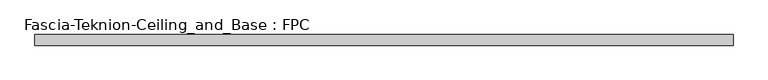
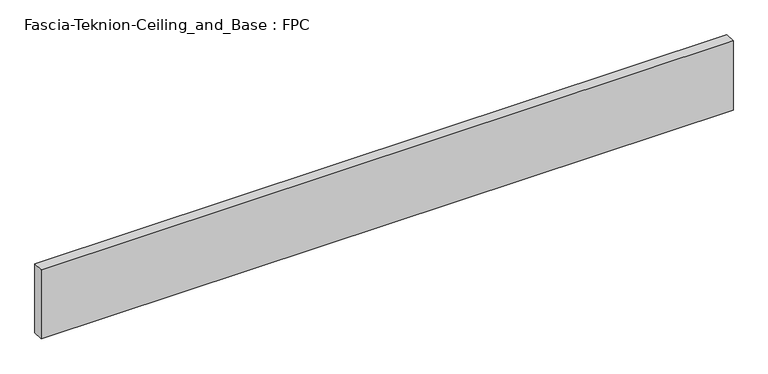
"""IFC4 building model written with IfcOpenShell, lengths in millimetres: proxy geometry, Fascia-Teknion-Ceiling_and_Base : FPC."""

from ifc_helpers import new_model, si_unit, origin, origin_with_axes, place, context, project, spatial, polyline, outline, extrude, source, transform, mapped, element, save


def fascia_teknion_ceiling_and_base_fpc_82e6e8aa(model_context):
    return source(origin(), model_context, "Body", "SweptSolid", [
        extrude(outline(polyline([(624.8300781, 0.0), (624.8300781, -19.05), (-624.8300781, -19.05), (-624.8300781, 0.0), (624.8300781, 0.0)])), origin_with_axes(), (0.0, 0.0, 1.0), 132.08),
    ])


if __name__ == "__main__":
    model = new_model("IFC4")
    model_context = context("Model", 3, world=origin())
    ifc_project = project(units=[si_unit("LENGTHUNIT", "METRE", prefix="MILLI")], contexts=[model_context])
    site = spatial("IfcSite", under=ifc_project)
    building = spatial("IfcBuilding", under=site)
    placement = place(None, origin())
    fascia_teknion_ceiling_and_base_fpc_shape = fascia_teknion_ceiling_and_base_fpc_82e6e8aa(model_context)
    element("IfcBuildingElementProxy", 1, Name="Fascia-Teknion-Ceiling_and_Base : FPC", ObjectType="Fascia-Teknion-Ceiling_and_Base : FPC", at=placement, inside=building, context=model_context, shape_type="MappedRepresentation", body=[
        mapped(fascia_teknion_ceiling_and_base_fpc_shape, transform((0.0, 0.0, 0.0), x_axis=(1.0, 0.0, 0.0), y_axis=(0.0, 1.0, 0.0), z_axis=(0.0, 0.0, 1.0))),
    ])
    save(model, "model.ifc")
